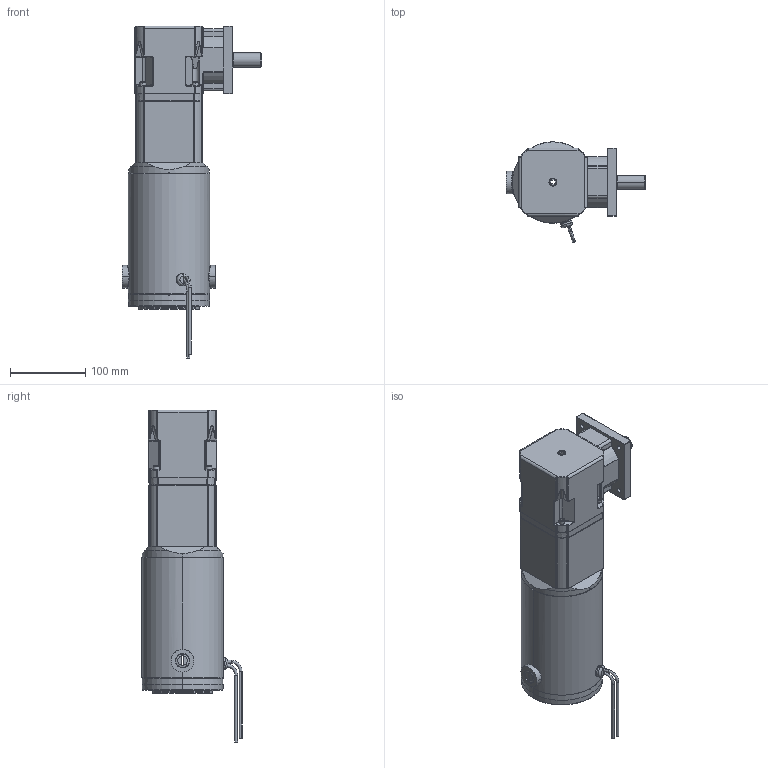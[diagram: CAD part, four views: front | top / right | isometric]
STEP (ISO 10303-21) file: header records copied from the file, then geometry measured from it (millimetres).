
FILE_DESCRIPTION (( 'STEP AP203' ), '1' );
FILE_NAME ('OUTLINE PM10816-RP7300_2S.STEP', '2006-08-08T20:52:43', ( 'Eng-KVV2' ), ( 'Groschopp' ), 'SwSTEP 2.0', 'SolidWorks 2006104', '' );
FILE_SCHEMA (( 'CONFIG_CONTROL_DESIGN' ));
Products named in the file (1): OUTLINE PM10816-RP7300_2S
Bounding box: 184.84 x 133.17 x 441.24 mm (x, y, z)
Surface area: 193629 mm2 (no closed solid volume)
Topology: 0 solids, 38 shells, 854 faces, 2781 edges, 1891 vertices
Faces by surface type: cylinder 293, plane 225, torus 116, bspline 103, cone 84, sphere 33
Entity records: 57488 total; most frequent: CARTESIAN_POINT 33537, DIRECTION 5271, ORIENTED_EDGE 4451, EDGE_CURVE 2756, AXIS2_PLACEMENT_3D 2093, VERTEX_POINT 1891, CIRCLE 1341, LINE 1085
